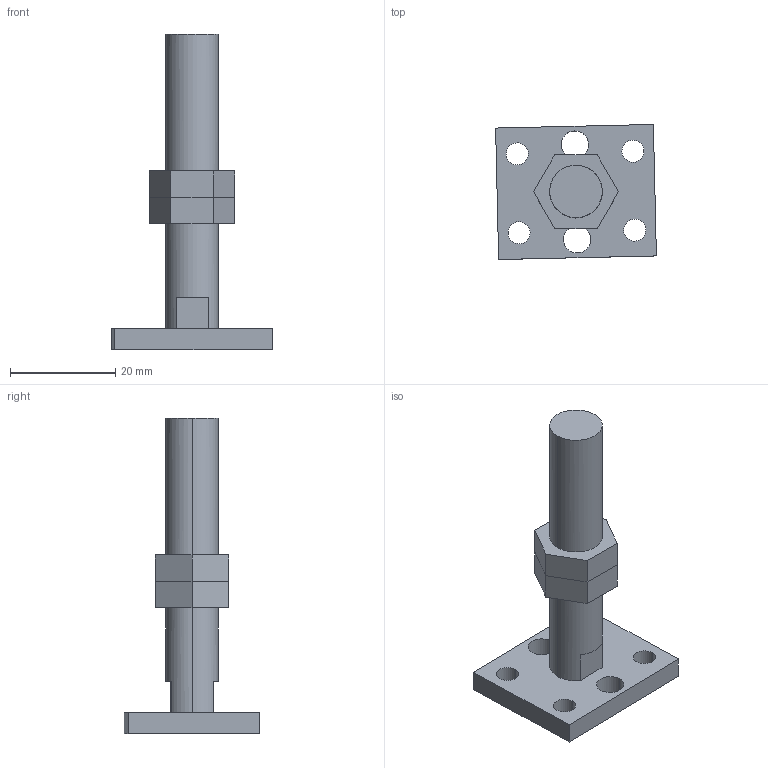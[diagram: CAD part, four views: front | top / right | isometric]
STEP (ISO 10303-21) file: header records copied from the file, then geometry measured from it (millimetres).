
FILE_DESCRIPTION (( 'STEP AP214' ), '1' );
FILE_NAME ('SMBU9-M10T.STEP', '2023-01-05T02:51:40', ( 'Windows User' ), ( 'P R C' ), 'SwSTEP 2.0', 'SolidWorks 2018', '' );
FILE_SCHEMA (( 'AUTOMOTIVE_DESIGN' ));
Length unit declared in the file: millimetre
Products named in the file (3): M10蹟佪; SMBU9-M10T; SMBU9-M10
Assembly tree (3 placements, depth 2):
  SMBU9-M10T
    M10蹟佪  x2
    SMBU9-M10
Bounding box: 30.56 x 25.68 x 60 mm (x, y, z)
Volume: 7869.6 mm3; surface area: 5020.4 mm2
Topology: 3 solids, 3 shells, 45 faces, 114 edges, 76 vertices
Faces by surface type: plane 27, cylinder 18
Entity records: 1226 total; most frequent: DIRECTION 208, CARTESIAN_POINT 191, ORIENTED_EDGE 180, EDGE_CURVE 90, AXIS2_PLACEMENT_3D 77, VERTEX_POINT 60, VECTOR 54, LINE 54
